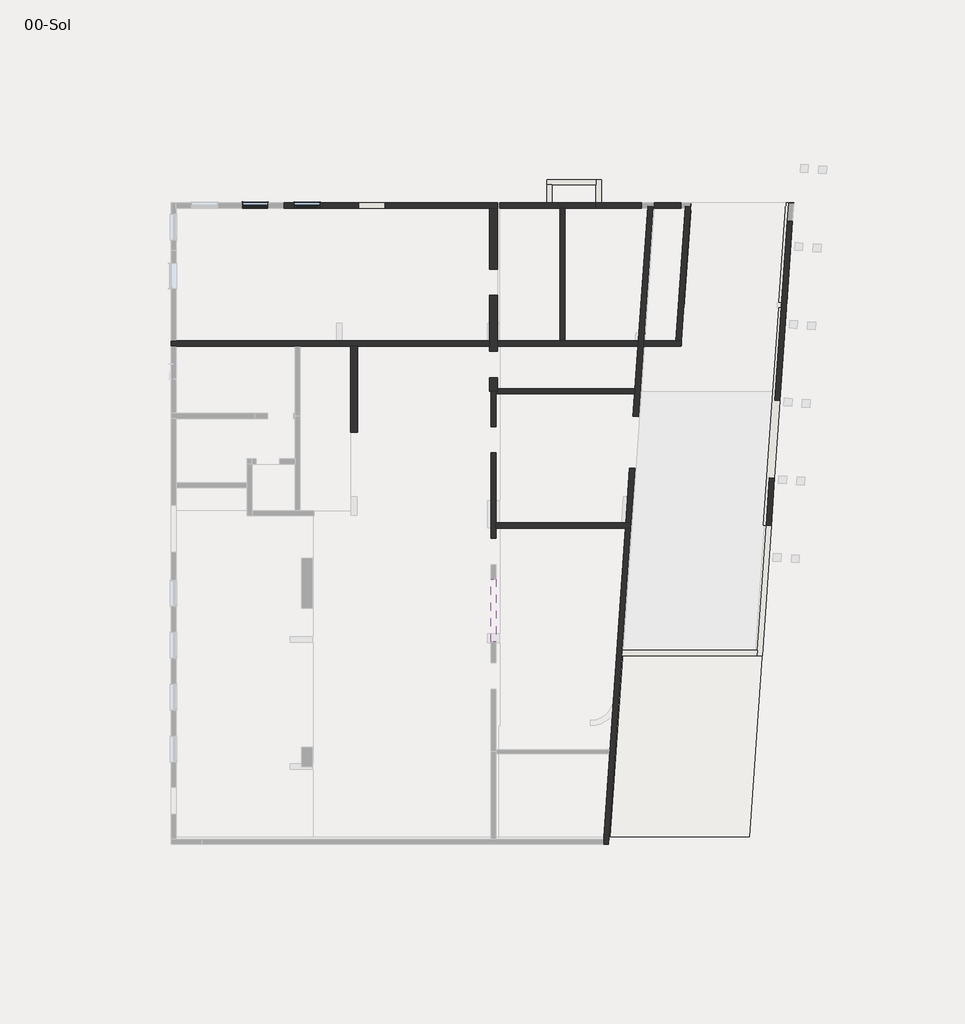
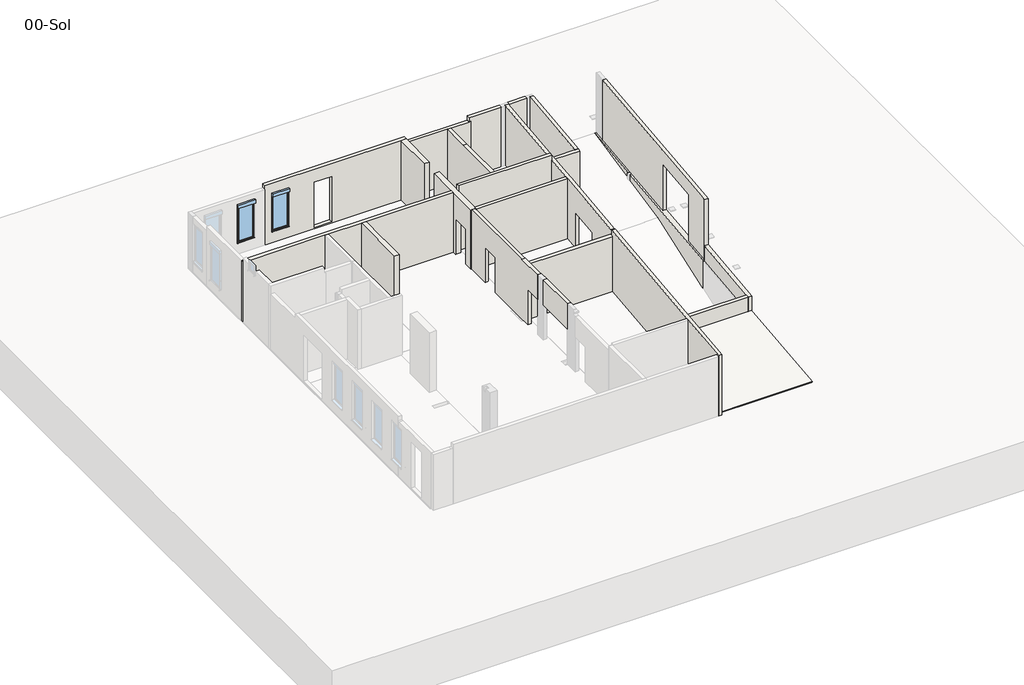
# One storey, part 2 of 4: 37 walls, 2 slabs, 2 windows.
"""IFC4 building model written with IfcOpenShell, lengths in millimetres."""

from ifc_helpers import new_model, si_unit, point, frame, frame_2d, origin, place, context, project, spatial, polyline, circle_curve, trimmed, segment, composite_curve, outline, extrude, faceted_brep, transform, mapped, element, save
from components import window_220x100_16273c3d

model = new_model("IFC4")

# Units and contexts
model_context = context("Model", 3, world=origin())
ifc_project = project(units=[si_unit("LENGTHUNIT", "METRE", prefix="MILLI")], contexts=[model_context])

# Site, building, storey
site = spatial("IfcSite", under=ifc_project)
building = spatial("IfcBuilding", under=site)
storey = spatial("IfcBuildingStorey", under=building, Name="00-Sol", Elevation=0.0)

# Slabs
placement = place(None, origin())
element("IfcSlab", 1, ObjectType="Plancher Coulé en place 27", at=placement, inside=storey, context=model_context, shape_type="SweptSolid", body=[
    extrude(outline(polyline([(10787.9047469, -5440.1377724), (11290.1513578, 1742.3233895), (16713.0368526, 1742.3233895), (16210.7902416, -5440.1377724), (10787.9047469, -5440.1377724)])), frame((0.0, 0.0, -220.0), z_axis=(0.0, 0.0, 1.0), x_axis=(1.0, 0.0, 0.0)), (0.0, 0.0, 1.0), 270.0),
])
element("IfcSlab", 2, ObjectType="Dallage 15", at=placement, inside=storey, context=model_context, shape_type="SweptSolid", body=[
    extrude(outline(composite_curve([segment(trimmed(circle_curve(frame_2d((10051.4470347, -15.3225366)), 1145.0172542), [point((10072.9548981, -1160.1377724))], [point((10816.6343347, -867.1164718))], True, "CARTESIAN"), True, "CONTINUOUS"), segment(trimmed(circle_curve(frame_2d((10128.1424498, -100.6986131)), 1030.2511392), [point((10816.6343347, -867.1164718))], [point((11155.883949, -172.5652996))], True, "CARTESIAN"), True, "CONTINUOUS"), segment(polyline([(11155.883949, -172.5652996), (11066.6218545, -1449.0727226), (16054.4421058, -1797.8550913), (15841.0057088, -4850.1377724), (5232.9552204, -4850.1377724), (5232.9552204, -1160.1377724), (10072.9548981, -1160.1377724)]), True, "CONTINUOUS")], self_intersect=False)), frame((0.0, 0.0, -3540.0), z_axis=(0.0, 0.0, 1.0), x_axis=(1.0, 0.0, 0.0)), (0.0, 0.0, 1.0), 150.0),
])

# Walls
element("IfcWall", 3, ObjectType="Voile Banché 20 cm", at=placement, inside=storey, context=model_context, shape_type="Brep", body=[
    faceted_brep([(-1757.0447796, 18799.8622276, 80.0), (6182.9552204, 18799.8622276, 80.0), (6482.9552204, 18799.8622276, 80.0), (6482.9552204, 18799.8622276, 3510.0), (6482.9552204, 18799.8622276, 3690.0), (6482.9552204, 18799.8622276, 3760.0), (6182.9552204, 18799.8622276, 3760.0), (-1757.0447796, 18799.8622276, 3760.0), (-1757.0447796, 18799.8622276, 3510.0), (1130.4552204, 18799.8622276, 150.0), (1130.4552204, 18799.8622276, 2950.0), (2155.4552204, 18799.8622276, 2950.0), (2155.4552204, 18799.8622276, 150.0), (-357.0447796, 18799.8622276, 3150.0), (-357.0447796, 18799.8622276, 750.0), (-1357.0447796, 18799.8622276, 750.0), (-1357.0447796, 18799.8622276, 3150.0), (6482.9552204, 18999.8622276, 80.0), (-1757.0447796, 18999.8622276, 80.0), (-1757.0447796, 18999.8622276, 3510.0), (-1757.0447796, 18999.8622276, 3760.0), (6482.9552204, 18999.8622276, 3760.0), (6482.9552204, 18999.8622276, 3690.0), (6482.9552204, 18999.8622276, 3510.0), (1130.4552204, 18999.8622276, 2950.0), (1130.4552204, 18999.8622276, 150.0), (2155.4552204, 18999.8622276, 150.0), (2155.4552204, 18999.8622276, 2950.0), (-357.0447796, 18999.8622276, 750.0), (-357.0447796, 18999.8622276, 3150.0), (-1357.0447796, 18999.8622276, 3150.0), (-1357.0447796, 18999.8622276, 750.0)], [[[0, 1, 2, 3, 4, 5, 6, 7, 8], [9, 10, 11, 12], [13, 14, 15, 16]], [[17, 18, 19, 20, 21, 22, 23], [24, 25, 26, 27], [28, 29, 30, 31]], [[2, 1, 0, 18, 17]], [[0, 8, 7, 20, 19, 18]], [[7, 6, 5, 21, 20]], [[2, 17, 23, 22, 21, 5, 4, 3]], [[9, 25, 24, 10]], [[10, 24, 27, 11]], [[11, 27, 26, 12]], [[25, 9, 12, 26]], [[28, 14, 13, 29]], [[29, 13, 16, 30]], [[30, 16, 15, 31]], [[14, 28, 31, 15]]]),
])
element("IfcWall", 4, ObjectType="Voile Banché 20 cm", at=placement, inside=storey, context=model_context, shape_type="Brep", body=[
    faceted_brep([(-6107.0447796, 13479.8622276, 80.0), (-5907.0447796, 13479.8622276, 80.0), (257.9552204, 13479.8622276, 80.0), (507.9552204, 13479.8622276, 80.0), (812.9552204, 13479.8622276, 80.0), (1082.9552204, 13479.8622276, 80.0), (6082.9552204, 13479.8622276, 80.0), (6182.9552204, 13479.8622276, 80.0), (6182.9552204, 13479.8622276, 3760.0), (1082.9552204, 13479.8622276, 3760.0), (812.9552204, 13479.8622276, 3760.0), (-1127.0447796, 13479.8622276, 3760.0), (-1327.0447796, 13479.8622276, 3760.0), (-6107.0447796, 13479.8622276, 3760.0), (-6107.0447796, 13679.8622276, 80.0), (-6107.0447796, 13679.8622276, 3760.0), (-5907.0447796, 13679.8622276, 3760.0), (6182.9552204, 13679.8622276, 3760.0), (6182.9552204, 13679.8622276, 80.0), (-5907.0447796, 13679.8622276, 80.0)], [[[0, 1, 2, 3, 4, 5, 6, 7, 8, 9, 10, 11, 12, 13]], [[14, 15, 16, 17, 18, 19]], [[7, 6, 5, 4, 3, 2, 1, 0, 14, 19, 18]], [[0, 13, 15, 14]], [[8, 7, 18, 17]], [[13, 12, 11, 10, 9, 8, 17, 16, 15]]]),
])
element("IfcWall", 5, ObjectType="Voile Banché 20 cm", at=placement, inside=storey, context=model_context, shape_type="Brep", body=[
    faceted_brep([(6432.9552204, 11729.8622276, 80.0), (6432.9552204, 11729.8622276, 3760.0), (6432.9552204, 6729.8622276, 3760.0), (6432.9552204, 6659.8622276, 3760.0), (6432.9552204, 5039.8622276, 3760.0), (6432.9552204, 5039.8622276, 2250.0), (6432.9552204, 6059.8622276, 2250.0), (6432.9552204, 6059.8622276, 80.0), (6432.9552204, 6459.8622276, 80.0), (6432.9552204, 6659.8622276, 80.0), (6432.9552204, 9354.8622276, 80.0), (6432.9552204, 9354.8622276, 2250.0), (6432.9552204, 10374.8622276, 2250.0), (6432.9552204, 10374.8622276, 80.0), (6232.9552204, 11729.8622276, 3760.0), (6232.9552204, 11729.8622276, 80.0), (6232.9552204, 10374.8622276, 80.0), (6232.9552204, 10374.8622276, 2250.0), (6232.9552204, 9354.8622276, 2250.0), (6232.9552204, 9354.8622276, 80.0), (6232.9552204, 6059.8622276, 80.0), (6232.9552204, 6059.8622276, 2250.0), (6232.9552204, 5039.8622276, 2250.0), (6232.9552204, 5039.8622276, 3760.0), (6232.9552204, 6659.8622276, 3760.0), (6232.9552204, 6729.8622276, 3760.0)], [[[0, 1, 2, 3, 4, 5, 6, 7, 8, 9, 10, 11, 12, 13]], [[14, 15, 16, 17, 18, 19, 20, 21, 22, 23, 24, 25]], [[15, 0, 13, 16]], [[19, 10, 9, 8, 7, 20]], [[1, 0, 15, 14]], [[4, 23, 22, 5]], [[11, 18, 17, 12]], [[18, 11, 10, 19]], [[12, 17, 16, 13]], [[21, 6, 5, 22]], [[6, 21, 20, 7]], [[4, 3, 24, 23]], [[3, 2, 1, 14, 25, 24]]]),
])
element("IfcWall", 6, ObjectType="Voile Banché 30 cm", at=placement, inside=storey, context=model_context, shape_type="Brep", body=[
    faceted_brep([(6182.9552204, 11729.8622276, 80.0), (6182.9552204, 11729.8622276, 3410.0), (6182.9552204, 11729.8622276, 3760.0), (6182.9552204, 11979.8622276, 3760.0), (6182.9552204, 13479.8622276, 3760.0), (6182.9552204, 13679.8622276, 3760.0), (6182.9552204, 15439.8622276, 3760.0), (6182.9552204, 15439.8622276, 80.0), (6182.9552204, 13679.8622276, 80.0), (6182.9552204, 13479.8622276, 80.0), (6182.9552204, 13269.8622276, 80.0), (6182.9552204, 13269.8622276, 2250.0), (6182.9552204, 12249.8622276, 2250.0), (6182.9552204, 12249.8622276, 80.0), (6482.9552204, 11729.8622276, 3760.0), (6482.9552204, 11729.8622276, 80.0), (6482.9552204, 12249.8622276, 80.0), (6482.9552204, 12249.8622276, 2250.0), (6482.9552204, 13269.8622276, 2250.0), (6482.9552204, 13269.8622276, 80.0), (6482.9552204, 13479.8622276, 80.0), (6482.9552204, 13679.8622276, 80.0), (6482.9552204, 15439.8622276, 80.0), (6482.9552204, 15439.8622276, 3760.0), (6432.9552204, 11729.8622276, 80.0), (6232.9552204, 11729.8622276, 80.0), (6432.9552204, 11729.8622276, 3760.0), (6232.9552204, 11729.8622276, 3760.0), (6432.9552204, 15439.8622276, 3760.0)], [[[0, 1, 2, 3, 4, 5, 6, 7, 8, 9, 10, 11, 12, 13]], [[14, 15, 16, 17, 18, 19, 20, 21, 22, 23]], [[7, 22, 21, 20, 19, 10, 9, 8]], [[15, 24, 25, 0, 13, 16]], [[2, 1, 0, 25, 24, 15, 14, 26, 27]], [[7, 6, 28, 23, 22]], [[11, 18, 17, 12]], [[18, 11, 10, 19]], [[12, 17, 16, 13]], [[6, 5, 4, 3, 2, 27, 26, 14, 23, 28]]]),
])
element("IfcWall", 7, ObjectType="Voile Banché 20 cm", at=placement, inside=storey, context=model_context, shape_type="Brep", body=[
    faceted_brep([(12287.1256822, 18866.837875, 3780.0), (12287.1256822, 18866.837875, 80.0), (11924.4170116, 13679.8622276, 80.0), (11910.4316492, 13479.8622276, 80.0), (11795.0524095, 11829.8622276, 80.0), (11781.0670471, 11629.8622276, 80.0), (11720.715218, 10766.7908613, 80.0), (11720.715218, 10766.7908613, 2250.0), (11581.2022705, 8771.6627608, 2250.0), (11581.2022705, 8771.6627608, 80.0), (11433.5307918, 6659.8622276, 80.0), (11433.5307918, 6659.8622276, 3490.0), (11427.0258953, 6566.837875, 3490.0), (11427.0258953, 6566.837875, 3780.0), (11433.5307918, 6659.8622276, 3780.0), (11781.0670471, 11629.8622276, 3780.0), (11795.0524095, 11829.8622276, 3780.0), (12486.6384923, 18852.8865803, 80.0), (12486.6384923, 18852.8865803, 3780.0), (12015.8195646, 12119.8622276, 3780.0), (11980.8561586, 11619.8622276, 3780.0), (11634.0191714, 6659.8622276, 3780.0), (11626.5387054, 6552.8865803, 3780.0), (11626.5387054, 6552.8865803, 3490.0), (11634.0191714, 6659.8622276, 3490.0), (11634.0191714, 6659.8622276, 80.0), (11702.6506396, 7641.3379502, 80.0), (11703.6160138, 7655.1434441, 80.0), (11780.7150805, 8757.711466, 80.0), (11780.7150805, 8757.711466, 2250.0), (11920.228028, 10752.8395665, 2250.0), (11920.228028, 10752.8395665, 80.0), (12109.9423399, 13465.8806245, 80.0), (12110.9200288, 13479.8622276, 80.0), (12111.4078136, 13486.837875, 80.0), (12124.9053912, 13679.8622276, 80.0)], [[[0, 1, 2, 3, 4, 5, 6, 7, 8, 9, 10, 11, 12, 13, 14, 15, 16]], [[17, 18, 19, 20, 21, 22, 23, 24, 25, 26, 27, 28, 29, 30, 31, 32, 33, 34, 35]], [[1, 17, 35, 34, 33, 32, 31, 6, 5, 4, 3, 2]], [[25, 10, 9, 28, 27, 26]], [[1, 0, 18, 17]], [[7, 30, 29, 8]], [[30, 7, 6, 31]], [[8, 29, 28, 9]], [[22, 13, 12, 23]], [[23, 12, 11, 24]], [[10, 25, 24, 11]], [[13, 22, 21, 14]], [[21, 20, 19, 18, 0, 16, 15, 14]]]),
])
element("IfcWall", 8, ObjectType="Voile Banché 20 cm", at=placement, inside=storey, context=model_context, shape_type="Brep", body=[
    faceted_brep([(6582.9552204, 18799.8622276, 80.0), (10272.9552204, 18799.8622276, 80.0), (10272.9552204, 18799.8622276, 3510.0), (10172.9552204, 18799.8622276, 3510.0), (9092.9552204, 18799.8622276, 3510.0), (8892.9552204, 18799.8622276, 3510.0), (6582.9552204, 18799.8622276, 3510.0), (6582.9552204, 18999.8622276, 80.0), (6582.9552204, 18999.8622276, 3510.0), (6632.9552204, 18999.8622276, 3510.0), (10172.9552204, 18999.8622276, 3510.0), (10272.9552204, 18999.8622276, 3510.0), (10272.9552204, 18999.8622276, 80.0)], [[[0, 1, 2, 3, 4, 5, 6]], [[7, 8, 9, 10, 11, 12]], [[1, 0, 7, 12]], [[0, 6, 8, 7]], [[3, 2, 11, 10]], [[6, 5, 4, 3, 10, 9, 8]], [[1, 12, 11, 2]]]),
])
element("IfcWall", 9, ObjectType="Voile Banché 20 cm", at=placement, inside=storey, context=model_context, shape_type="SweptSolid", body=[
    extrude(outline(polyline([(13562.9552204, 18799.8622276), (12542.9552204, 18799.8622276), (12542.9552204, 18999.8622276), (13562.9552204, 18999.8622276), (13562.9552204, 18799.8622276)])), frame((0.0, 0.0, 80.0), z_axis=(0.0, 0.0, 1.0), x_axis=(1.0, 0.0, 0.0)), (0.0, 0.0, 1.0), 3700.0),
])
element("IfcWall", 10, ObjectType="Voile Banché 20 cm", at=placement, inside=storey, context=model_context, shape_type="Brep", body=[
    faceted_brep([(6432.9552204, 6459.8622276, 80.0), (6582.9552204, 6459.8622276, 80.0), (11419.5454294, 6459.8622276, 80.0), (11620.033809, 6459.8622276, 80.0), (11620.033809, 6459.8622276, 3210.0), (11620.033809, 6459.8622276, 3490.0), (11419.5454294, 6459.8622276, 3490.0), (6432.9552204, 6459.8622276, 3490.0), (6432.9552204, 6659.8622276, 80.0), (6432.9552204, 6659.8622276, 3490.0), (11433.5307918, 6659.8622276, 3490.0), (11634.0191714, 6659.8622276, 3490.0), (11634.0191714, 6659.8622276, 80.0), (11433.5307918, 6659.8622276, 80.0), (11626.5387054, 6552.8865803, 3490.0)], [[[0, 1, 2, 3, 4, 5, 6, 7]], [[8, 9, 10, 11, 12, 13]], [[3, 2, 1, 0, 8, 13, 12]], [[7, 6, 5, 14, 11, 10, 9]], [[0, 7, 9, 8]], [[5, 4, 3, 12, 11, 14]]]),
])
element("IfcWall", 11, ObjectType="Voile Banché 20 cm", at=placement, inside=storey, context=model_context, shape_type="Brep", body=[
    faceted_brep([(11419.5454294, 6459.8622276, 80.0), (10822.3704554, -2080.1377724, 80.0), (10811.1821655, -2240.1377724, 80.0), (10587.4163672, -5440.1377724, 80.0), (10587.3940444, -5440.4570037, 80.0), (10580.423686, -5540.1377724, 80.0), (10566.4383237, -5740.1377724, 80.0), (10566.4383237, -5740.1377724, 3760.0), (10566.4383237, -5740.1377724, 3810.0), (10811.1821655, -2240.1377724, 3810.0), (10822.3704554, -2080.1377724, 3810.0), (11427.0258953, 6566.837875, 3810.0), (11427.0258953, 6566.837875, 3780.0), (11427.0258953, 6566.837875, 3490.0), (11419.5454294, 6459.8622276, 3490.0), (10766.9267033, -5740.1377724, 80.0), (10787.882424, -5440.4570037, 80.0), (10787.9047469, -5440.1377724, 80.0), (11620.033809, 6459.8622276, 80.0), (11620.033809, 6459.8622276, 3490.0), (11626.5387054, 6552.8865803, 3490.0), (11626.5387054, 6552.8865803, 3780.0), (11626.5387054, 6552.8865803, 3810.0), (10766.9267033, -5740.1377724, 3810.0), (10766.9267033, -5740.1377724, 280.0), (11434.634224, 6566.3058488, 3810.0)], [[[0, 1, 2, 3, 4, 5, 6, 7, 8, 9, 10, 11, 12, 13, 14]], [[15, 16, 17, 18, 19, 20, 21, 22, 23, 24]], [[0, 14, 19, 18]], [[6, 5, 4, 3, 2, 1, 0, 18, 17, 16, 15]], [[11, 10, 9, 8, 23, 22, 25]], [[13, 12, 11, 25, 22, 21, 20]], [[13, 20, 19, 14]], [[8, 7, 6, 15, 24, 23]]]),
])
element("IfcWall", 12, ObjectType="Voile Banché 20 cm", at=placement, inside=storey, context=model_context, shape_type="Brep", body=[
    faceted_brep([(16849.9113901, 6566.837875, 80.0), (16849.9113901, 6566.837875, 950.0), (16849.9113901, 6566.837875, 3210.0), (16849.9113901, 6566.837875, 3780.0), (16877.3943301, 6959.8622276, 3780.0), (17670.9713991, 18308.5430398, 3780.0), (17670.9713991, 18308.5430398, 80.0), (17186.8614713, 11385.448531, 80.0), (17186.8614713, 11385.448531, 2950.0), (16977.59205, 8392.7563802, 2950.0), (16977.59205, 8392.7563802, 80.0), (17049.4242002, 6552.8865803, 3780.0), (17049.4242002, 6552.8865803, 3210.0), (17049.4242002, 6552.8865803, 950.0), (17049.4242002, 6552.8865803, 80.0), (17177.1048601, 8378.8050855, 80.0), (17177.1048601, 8378.8050855, 2950.0), (17386.3742813, 11371.4972363, 2950.0), (17386.3742813, 11371.4972363, 80.0), (17636.1024573, 14942.7765362, 80.0), (17870.4842091, 18294.5917451, 80.0), (17870.4842091, 18294.5917451, 3780.0)], [[[0, 1, 2, 3, 4, 5, 6, 7, 8, 9, 10]], [[11, 12, 13, 14, 15, 16, 17, 18, 19, 20, 21]], [[14, 0, 10, 15]], [[6, 20, 19, 18, 7]], [[3, 2, 1, 0, 14, 13, 12, 11]], [[6, 5, 21, 20]], [[8, 17, 16, 9]], [[17, 8, 7, 18]], [[9, 16, 15, 10]], [[5, 4, 3, 11, 21]]]),
])
element("IfcWall", 13, ObjectType="Voile Banché 20 cm", at=placement, inside=storey, context=model_context, shape_type="Brep", body=[
    faceted_brep([(13737.1502343, 18866.837875, 80.0), (13732.4668408, 18799.8622276, 80.0), (13374.4415637, 13679.8622276, 80.0), (13374.4415637, 13679.8622276, 3780.0), (13732.4668408, 18799.8622276, 3780.0), (13737.1502343, 18866.837875, 3780.0), (13936.6630444, 18852.8865803, 80.0), (13936.6630444, 18852.8865803, 3410.0), (13936.6630444, 18852.8865803, 3780.0), (13932.9552204, 18799.8622276, 3780.0), (13574.9299433, 13679.8622276, 3780.0), (13574.9299433, 13679.8622276, 3760.0), (13574.9299433, 13679.8622276, 80.0), (13932.9552204, 18853.1458566, 80.0), (13932.9552204, 18853.1458566, 3780.0)], [[[0, 1, 2, 3, 4, 5]], [[6, 7, 8, 9, 10, 11, 12]], [[2, 1, 0, 13, 6, 12]], [[0, 5, 14, 8, 7, 6, 13]], [[3, 2, 12, 11, 10]], [[5, 4, 3, 10, 9, 8, 14]]]),
])
element("IfcWall", 14, ObjectType="Voile Banché 20 cm", at=placement, inside=storey, context=model_context, shape_type="Brep", body=[
    faceted_brep([(12110.9200288, 13479.8622276, 80.0), (13560.9445809, 13479.8622276, 80.0), (13560.9445809, 13479.8622276, 3760.0), (12110.9200288, 13479.8622276, 3760.0), (12124.9053912, 13679.8622276, 80.0), (12124.9053912, 13679.8622276, 3760.0), (13574.9299433, 13679.8622276, 3760.0), (13574.9299433, 13679.8622276, 80.0), (13374.4415637, 13679.8622276, 80.0)], [[[0, 1, 2, 3]], [[4, 5, 6, 7, 8]], [[1, 0, 4, 8, 7]], [[3, 2, 6, 5]], [[0, 3, 5, 4]], [[2, 1, 7, 6]]]),
])
element("IfcWall", 15, ObjectType="Voile Banché 30 cm", at=placement, inside=storey, context=model_context, shape_type="SweptSolid", body=[
    extrude(outline(polyline([(6182.9552204, 16439.8622276), (6182.9552204, 18799.8622276), (6482.9552204, 18799.8622276), (6482.9552204, 16439.8622276), (6182.9552204, 16439.8622276)])), frame((0.0, 0.0, 80.0), z_axis=(0.0, 0.0, 1.0), x_axis=(1.0, 0.0, 0.0)), (0.0, 0.0, 1.0), 3680.0),
])
element("IfcWall", 16, ObjectType="Voile Banché 20 cm", at=placement, inside=storey, context=model_context, shape_type="SweptSolid", body=[
    extrude(outline(polyline([(6432.9552204, 4489.8622276), (6432.9552204, 2069.8622276), (6232.9552204, 2069.8622276), (6232.9552204, 4489.8622276), (6432.9552204, 4489.8622276)])), frame((0.0, 0.0, 2250.0), z_axis=(0.0, 0.0, 1.0), x_axis=(1.0, 0.0, 0.0)), (0.0, 0.0, 1.0), 1560.0),
])
element("IfcWall", 17, ObjectType="Voile Banché 20 cm", at=placement, inside=storey, context=model_context, shape_type="Brep", body=[
    faceted_brep([(10272.9552204, 18799.8622276, 3510.0), (10272.9552204, 18799.8622276, 80.0), (12042.9552204, 18799.8622276, 80.0), (12042.9552204, 18799.8622276, 3780.0), (10372.9552204, 18799.8622276, 3780.0), (10172.9552204, 18799.8622276, 3780.0), (10172.9552204, 18799.8622276, 3690.0), (10172.9552204, 18799.8622276, 3510.0), (10272.9552204, 18999.8622276, 80.0), (10272.9552204, 18999.8622276, 3510.0), (10172.9552204, 18999.8622276, 3510.0), (10172.9552204, 18999.8622276, 3690.0), (10172.9552204, 18999.8622276, 3780.0), (10372.9552204, 18999.8622276, 3780.0), (12042.9552204, 18999.8622276, 3780.0), (12042.9552204, 18999.8622276, 80.0)], [[[0, 1, 2, 3, 4, 5, 6, 7]], [[8, 9, 10, 11, 12, 13, 14, 15]], [[2, 1, 8, 15]], [[3, 2, 15, 14]], [[5, 4, 3, 14, 13, 12]], [[0, 9, 8, 1]], [[7, 10, 9, 0]], [[5, 12, 11, 10, 7, 6]]]),
])
element("IfcWall", 18, ObjectType="Voile Banché 28", at=placement, inside=storey, context=model_context, shape_type="Brep", body=[
    faceted_brep([(-5827.0447796, 18719.8622276, -3690.0), (6182.9552204, 18719.8622276, -3690.0), (6482.9552204, 18719.8622276, -3690.0), (12301.5840174, 18719.8622276, -3690.0), (12502.072397, 18719.8622276, -3690.0), (13740.0881411, 18719.8622276, -3690.0), (13940.5765208, 18719.8622276, -3690.0), (17599.4894487, 18719.8622276, -3690.0), (17599.4894487, 18719.8622276, -3520.0), (17599.4894487, 18719.8622276, -3390.0), (17599.4894487, 18719.8622276, -150.0), (12502.072397, 18719.8622276, -150.0), (12301.5840174, 18719.8622276, -150.0), (-5827.0447796, 18719.8622276, -150.0), (-5827.0447796, 18719.8622276, -3390.0), (-5827.0447796, 18719.8622276, -3520.0), (8589.8015255, 18719.8622276, -2490.0), (10289.8015255, 18719.8622276, -2490.0), (10289.8015255, 18719.8622276, -3390.0), (8589.8015255, 18719.8622276, -3390.0), (17619.0689561, 18999.8622276, -3690.0), (10489.8015255, 18999.8622276, -3690.0), (10289.8015255, 18999.8622276, -3690.0), (8589.8015255, 18999.8622276, -3690.0), (8389.8015255, 18999.8622276, -3690.0), (-5827.0447796, 18999.8622276, -3690.0), (-5827.0447796, 18999.8622276, -190.0), (-5827.0447796, 18999.8622276, -150.0), (13562.9552204, 18999.8622276, -150.0), (13932.9552204, 18999.8622276, -150.0), (17619.0689561, 18999.8622276, -150.0), (10289.8015255, 18999.8622276, -2490.0), (8589.8015255, 18999.8622276, -2490.0), (8589.8015255, 18999.8622276, -3390.0), (10289.8015255, 18999.8622276, -3390.0)], [[[0, 1, 2, 3, 4, 5, 6, 7, 8, 9, 10, 11, 12, 13, 14, 15], [16, 17, 18, 19]], [[20, 21, 22, 23, 24, 25, 26, 27, 28, 29, 30], [31, 32, 33, 34]], [[0, 15, 14, 13, 27, 26, 25]], [[10, 9, 8, 7, 20, 30]], [[7, 6, 5, 4, 3, 2, 1, 0, 25, 24, 23, 22, 21, 20]], [[13, 12, 11, 10, 30, 29, 28, 27]], [[16, 32, 31, 17]], [[18, 34, 33, 19]], [[17, 31, 34, 18]], [[32, 16, 19, 33]]]),
])
element("IfcWall", 19, ObjectType="Voile Banché 30 cm", at=placement, inside=storey, context=model_context, shape_type="Brep", body=[
    faceted_brep([(17336.8332423, 14963.7034783, -3690.0), (17335.6538844, 14946.837875, -3690.0), (17247.5461013, 13686.837875, -3690.0), (17233.5607389, 13486.837875, -3690.0), (16756.1720967, 6659.8622276, -3690.0), (16749.9110927, 6570.3256987, -3690.0), (16749.9110927, 6570.3256987, -1898.5951518), (17110.3924021, 11725.4485968, -787.5675568), (17110.3924021, 11725.4485968, -552.3120168), (16749.9110927, 6570.3256987, -1663.3396118), (16749.9110927, 6570.3256987, 80.0), (17335.6538844, 14946.837875, 80.0), (17336.8332423, 14963.7034783, 80.0), (17336.8332423, 14963.7034783, -269.493518), (17336.8332423, 14963.7034783, -500.4065293), (17336.8332423, 14963.7034783, -3390.0), (17336.8332423, 14963.7034783, -3520.0), (17049.1803078, 6549.3987566, -3690.0), (17636.1024573, 14942.7765362, -3690.0), (17636.1024573, 14942.7765362, 80.0), (17386.3742813, 11371.4972363, 80.0), (17177.1048601, 8378.8050855, 80.0), (17049.4242002, 6552.8865803, 80.0), (17049.1803078, 6549.3987566, 80.0), (17578.0226065, 14946.837875, -3690.0), (17578.0226065, 14946.837875, 80.0), (16799.7892952, 6566.837875, -1898.5951518), (17160.514497, 11725.4485968, -786.8158641), (17160.514497, 11725.4485968, -551.5603241), (16799.7892952, 6566.837875, -1663.3396118)], [[[0, 1, 2, 3, 4, 5, 6, 7, 8, 9, 10, 11, 12, 13, 14, 15, 16]], [[17, 18, 19, 20, 21, 22, 23]], [[5, 4, 3, 2, 1, 0, 24, 18, 17]], [[12, 11, 10, 23, 22, 21, 20, 19, 25]], [[0, 16, 15, 14, 13, 12, 25, 19, 18, 24]], [[26, 27, 7, 6]], [[8, 28, 29, 9]], [[27, 28, 8, 7]], [[28, 27, 26, 29]], [[5, 17, 23, 10, 9, 29, 26, 6]]]),
])
element("IfcWall", 20, ObjectType="Voile Banché 20 cm", at=placement, inside=storey, context=model_context, shape_type="Brep", body=[
    faceted_brep([(16849.9113901, 6566.837875, -220.0), (16849.9113901, 6566.837875, -3690.0), (16842.4309241, 6459.8622276, -3690.0), (16503.1722526, 1608.237191, -3690.0), (16503.1722526, 1608.237191, -220.0), (16512.548473, 1742.3233895, -220.0), (17049.4242002, 6552.8865803, -3690.0), (17049.4242002, 6552.8865803, -220.0), (16713.0368526, 1742.3233895, -220.0), (16702.6850626, 1594.2858962, -220.0), (16702.6850626, 1594.2858962, -3690.0)], [[[0, 1, 2, 3, 4, 5]], [[6, 7, 8, 9, 10]], [[3, 2, 1, 6, 10]], [[4, 3, 10, 9]], [[0, 5, 8, 7]], [[5, 4, 9, 8]], [[0, 7, 6, 1]]]),
])
element("IfcWall", 21, ObjectType="Voile Banché 20 cm", at=placement, inside=storey, context=model_context, shape_type="Brep", body=[
    faceted_brep([(13740.0881411, 18719.8622276, -3690.0), (13476.2525768, 14946.837875, -3690.0), (13476.2525768, 14946.837875, -120.0), (13476.2525768, 14946.837875, 80.0), (13740.0881411, 18719.8622276, 80.0), (13940.5765208, 18719.8622276, -3690.0), (13940.5765208, 18719.8622276, 80.0), (13676.7409564, 14946.837875, 80.0), (13676.7409564, 14946.837875, -120.0), (13676.7409564, 14946.837875, -420.0), (13676.7409564, 14946.837875, -3690.0), (13690.7263188, 15146.837875, -3690.0)], [[[0, 1, 2, 3, 4]], [[5, 6, 7, 8, 9, 10, 11]], [[1, 0, 5, 11, 10]], [[4, 3, 7, 6]], [[0, 4, 6, 5]], [[3, 2, 1, 10, 9, 8, 7]]]),
])
element("IfcWall", 22, ObjectType="Voile Banché 20 cm", at=placement, inside=storey, context=model_context, shape_type="Brep", body=[
    faceted_brep([(12301.5840174, 18719.8622276, -3690.0), (11969.9232764, 13976.8926603, -3690.0), (11969.3572698, 13968.7983882, -3690.0), (11969.3572698, 13968.7983882, -3520.0), (11969.3572698, 13968.7983882, -3390.0), (11969.3572698, 13968.7983882, -150.0), (11969.9232764, 13976.8926603, -150.0), (12301.5840174, 18719.8622276, -150.0), (12502.072397, 18719.8622276, -3690.0), (12502.072397, 18719.8622276, -150.0), (12168.8700798, 13954.8470935, -150.0), (12168.8700798, 13954.8470935, -3690.0), (12168.43665, 13954.8774018, -3690.0), (12168.43665, 13954.8774018, -150.0)], [[[0, 1, 2, 3, 4, 5, 6, 7]], [[8, 9, 10, 11]], [[2, 1, 0, 8, 11, 12]], [[5, 4, 3, 2, 12, 11, 10, 13]], [[0, 7, 9, 8]], [[7, 6, 5, 13, 10, 9]]]),
])
element("IfcWall", 23, ObjectType="Voile Banché 20 cm", at=placement, inside=storey, context=model_context, shape_type="Brep", body=[
    faceted_brep([(13589.8015255, 13486.837875, -3690.0), (17233.5607389, 13486.837875, -3690.0), (17233.5607389, 13486.837875, -560.0), (13589.8015255, 13486.837875, -560.0), (13589.8015255, 13486.837875, 80.0), (12111.4078136, 13486.837875, 80.0), (11810.239695, 13486.837875, 80.0), (11789.8015255, 13486.837875, 80.0), (11789.8015255, 13486.837875, -150.0), (11789.8015255, 13486.837875, -1650.0), (11789.8015255, 13486.837875, -3690.0), (11810.239695, 13486.837875, -3690.0), (12135.708138, 13486.837875, -3690.0), (16110.6166987, 13486.837875, -1290.0), (17210.6166987, 13486.837875, -1290.0), (17210.6166987, 13486.837875, -3390.0), (16110.6166987, 13486.837875, -3390.0), (17247.5461013, 13686.837875, -3690.0), (13589.8015255, 13686.837875, -3690.0), (12149.6935004, 13686.837875, -3690.0), (11798.838836, 13686.837875, -3690.0), (11789.8015255, 13686.837875, -3690.0), (11789.8015255, 13686.837875, -300.0), (11789.8015255, 13686.837875, -150.0), (11789.8015255, 13686.837875, 80.0), (11803.6869502, 13686.837875, 80.0), (11845.6552204, 13686.837875, 80.0), (13589.8015255, 13686.837875, 80.0), (13589.8015255, 13686.837875, -560.0), (17247.5461013, 13686.837875, -560.0), (17210.6166987, 13686.837875, -1290.0), (16110.6166987, 13686.837875, -1290.0), (16110.6166987, 13686.837875, -3390.0), (17210.6166987, 13686.837875, -3390.0), (11789.8015255, 13557.5983132, -3690.0), (11789.8015255, 13488.267051, -3690.0)], [[[0, 1, 2, 3, 4, 5, 6, 7, 8, 9, 10, 11, 12], [13, 14, 15, 16]], [[17, 18, 19, 20, 21, 22, 23, 24, 25, 26, 27, 28, 29], [30, 31, 32, 33]], [[2, 1, 17, 29]], [[13, 31, 30, 14]], [[15, 33, 32, 16]], [[31, 13, 16, 32]], [[14, 30, 33, 15]], [[1, 0, 18, 17]], [[3, 2, 29, 28]], [[4, 3, 28, 27]], [[7, 6, 5, 4, 27, 26, 25, 24]], [[10, 9, 8, 7, 24, 23, 22, 21, 34, 35]], [[0, 12, 11, 10, 35, 34, 21, 20, 19, 18]]]),
])
element("IfcWall", 24, ObjectType="Voile Banché 20 cm", at=placement, inside=storey, context=model_context, shape_type="Brep", body=[
    faceted_brep([(13676.7409564, 14946.837875, -3690.0), (17284.2933084, 14946.837875, -3690.0), (17284.2933084, 14946.837875, -3520.0), (17284.2933084, 14946.837875, -3390.0), (16184.2933084, 14946.837875, -3390.0), (16184.2933084, 14946.837875, -1290.0), (17284.2933084, 14946.837875, -1290.0), (17284.2933084, 14946.837875, -502.2340046), (17284.2933084, 14946.837875, -420.0), (13676.7409564, 14946.837875, -420.0), (17284.2933084, 15146.837875, -3690.0), (13690.7263188, 15146.837875, -3690.0), (13690.7263188, 15146.837875, -420.0), (17284.2933084, 15146.837875, -420.0), (17284.2933084, 15146.837875, -484.4393108), (17284.2933084, 15146.837875, -1290.0), (16184.2933084, 15146.837875, -1290.0), (16184.2933084, 15146.837875, -3390.0), (17284.2933084, 15146.837875, -3390.0), (17284.2933084, 15146.837875, -3520.0)], [[[0, 1, 2, 3, 4, 5, 6, 7, 8, 9]], [[10, 11, 12, 13, 14, 15, 16, 17, 18, 19]], [[1, 0, 11, 10]], [[1, 10, 19, 18, 3, 2]], [[13, 8, 7, 6, 15, 14]], [[9, 8, 13, 12]], [[0, 9, 12, 11]], [[5, 16, 15, 6]], [[17, 4, 3, 18]], [[16, 5, 4, 17]]]),
])
element("IfcWall", 25, ObjectType="Voile Banché 30 cm", at=placement, inside=storey, context=model_context, shape_type="Brep", body=[
    faceted_brep([(6182.9552204, 18719.8622276, -3690.0), (6182.9552204, 14379.8622276, -3690.0), (6182.9552204, 14279.8622276, -3690.0), (6182.9552204, 14279.8622276, -3520.0), (6182.9552204, 14279.8622276, -3390.0), (6182.9552204, 14279.8622276, -720.0), (6182.9552204, 14279.8622276, -190.0), (6182.9552204, 14379.8622276, -190.0), (6182.9552204, 18719.8622276, -190.0), (6482.9552204, 18719.8622276, -3690.0), (6482.9552204, 18719.8622276, -190.0), (6482.9552204, 14379.8622276, -190.0), (6482.9552204, 14279.8622276, -190.0), (6482.9552204, 14279.8622276, -720.0), (6482.9552204, 14279.8622276, -3390.0), (6482.9552204, 14279.8622276, -3520.0), (6482.9552204, 14279.8622276, -3690.0), (6482.9552204, 14379.8622276, -3690.0)], [[[0, 1, 2, 3, 4, 5, 6, 7, 8]], [[9, 10, 11, 12, 13, 14, 15, 16, 17]], [[2, 1, 0, 9, 17, 16]], [[6, 5, 4, 3, 2, 16, 15, 14, 13, 12]], [[0, 8, 10, 9]], [[8, 7, 6, 12, 11, 10]]]),
])
element("IfcWall", 26, ObjectType="Voile Banché 27", at=placement, inside=storey, context=model_context, shape_type="Brep", body=[
    faceted_brep([(1082.9552204, 7679.8622276, -3690.0), (1082.9552204, 10679.8622276, -3690.0), (1082.9552204, 10679.8622276, -190.0), (1082.9552204, 7679.8622276, -190.0), (1082.9552204, 7679.8622276, -3390.0), (1082.9552204, 7679.8622276, -3520.0), (812.9552204, 7679.8622276, -3690.0), (812.9552204, 7679.8622276, -3520.0), (812.9552204, 7679.8622276, -3390.0), (812.9552204, 7679.8622276, -190.0), (812.9552204, 10679.8622276, -190.0), (812.9552204, 10679.8622276, -3690.0)], [[[0, 1, 2, 3, 4, 5]], [[6, 7, 8, 9, 10, 11]], [[1, 0, 6, 11]], [[0, 5, 4, 3, 9, 8, 7, 6]], [[2, 1, 11, 10]], [[3, 2, 10, 9]]]),
])
element("IfcWall", 27, ObjectType="Voile Banché 20 cm", at=placement, inside=storey, context=model_context, shape_type="Brep", body=[
    faceted_brep([(11433.4615436, 6659.8622276, -150.0), (11433.4615436, 6659.8622276, -3690.0), (10961.0375218, -131.6850201, -3690.0), (10961.0375218, -131.6850201, -150.0), (11419.5494259, 6459.8622276, -150.0), (11633.9448272, 6659.8622276, -3690.0), (11633.9448272, 6659.8622276, -1842.4721166), (11633.9448272, 6659.8622276, -150.0), (11160.5554032, -145.5636013, -150.0), (11160.5554032, -145.5636013, -3690.0), (11620.0327096, 6459.8622276, -3690.0)], [[[0, 1, 2, 3, 4]], [[5, 6, 7, 8, 9, 10]], [[2, 1, 5, 10, 9]], [[3, 2, 9, 8]], [[0, 4, 3, 8, 7]], [[0, 7, 6, 5, 1]]]),
])
element("IfcWall", 28, ObjectType="Voile Banché 20 cm", at=placement, inside=storey, context=model_context, shape_type="Brep", body=[
    faceted_brep([(10489.8015255, 18999.8622276, -3690.0), (10489.8015255, 19899.8622276, -3690.0), (10489.8015255, 19899.8622276, 150.0), (10489.8015255, 18999.8622276, 150.0), (10289.8015255, 18999.8622276, -3690.0), (10289.8015255, 18999.8622276, -3390.0), (10289.8015255, 18999.8622276, -2490.0), (10289.8015255, 18999.8622276, 150.0), (10289.8015255, 19699.8622276, 150.0), (10289.8015255, 19899.8622276, 150.0), (10289.8015255, 19899.8622276, -3690.0), (10289.8015255, 19699.8622276, -3690.0)], [[[0, 1, 2, 3]], [[4, 5, 6, 7, 8, 9, 10, 11]], [[1, 0, 4, 11, 10]], [[3, 2, 9, 8, 7]], [[2, 1, 10, 9]], [[0, 3, 7, 6, 5, 4]]]),
])
element("IfcWall", 29, ObjectType="Voile Banché 20 cm", at=placement, inside=storey, context=model_context, shape_type="Brep", body=[
    faceted_brep([(10289.8015255, 19899.8622276, -3690.0), (8389.8015255, 19899.8622276, -3690.0), (8389.8015255, 19899.8622276, 150.0), (10289.8015255, 19899.8622276, 150.0), (10289.8015255, 19699.8622276, -3690.0), (10289.8015255, 19699.8622276, 150.0), (8589.8015255, 19699.8622276, 150.0), (8389.8015255, 19699.8622276, 150.0), (8389.8015255, 19699.8622276, -3690.0), (8589.8015255, 19699.8622276, -3690.0)], [[[0, 1, 2, 3]], [[4, 5, 6, 7, 8, 9]], [[1, 0, 4, 9, 8]], [[3, 2, 7, 6, 5]], [[0, 3, 5, 4]], [[2, 1, 8, 7]]]),
])
element("IfcWall", 30, ObjectType="Voile Banché 20 cm", at=placement, inside=storey, context=model_context, shape_type="Brep", body=[
    faceted_brep([(8389.8015255, 19699.8622276, -3690.0), (8389.8015255, 18999.8622276, -3690.0), (8389.8015255, 18999.8622276, 150.0), (8389.8015255, 19699.8622276, 150.0), (8589.8015255, 19699.8622276, -3690.0), (8589.8015255, 19699.8622276, 150.0), (8589.8015255, 18999.8622276, 150.0), (8589.8015255, 18999.8622276, -2490.0), (8589.8015255, 18999.8622276, -3390.0), (8589.8015255, 18999.8622276, -3690.0)], [[[0, 1, 2, 3]], [[4, 5, 6, 7, 8, 9]], [[1, 0, 4, 9]], [[3, 2, 6, 5]], [[0, 3, 5, 4]], [[2, 1, 9, 8, 7, 6]]]),
])
element("IfcWall", 31, ObjectType="Voile Banché 30 cm", at=placement, inside=storey, context=model_context, shape_type="Brep", body=[
    faceted_brep([(17619.0689561, 18999.8622276, -3690.0), (17599.4894487, 18719.8622276, -3690.0), (17350.5167973, 15159.3874317, -3690.0), (17350.5167973, 15159.3874317, 80.0), (17619.0689561, 18999.8622276, 80.0), (17619.0689561, 18999.8622276, -150.0), (17919.8015255, 18999.8622276, -3690.0), (17919.8015255, 18999.8622276, 80.0), (17919.3137407, 18992.8865803, 80.0), (17870.4842091, 18294.5917451, 80.0), (17649.7860123, 15138.4604896, 80.0), (17649.7860123, 15138.4604896, -3690.0), (17634.2933084, 15139.543845, -3690.0), (17529.9838196, 15146.837875, -3690.0), (17634.2933084, 15139.543845, 80.0), (17529.9838196, 15146.837875, 80.0)], [[[0, 1, 2, 3, 4, 5]], [[6, 7, 8, 9, 10, 11]], [[2, 1, 0, 6, 11, 12, 13]], [[3, 2, 13, 12, 11, 10, 14, 15]], [[4, 3, 15, 14, 10, 9, 8, 7]], [[0, 5, 4, 7, 6]]]),
])
element("IfcWall", 32, ObjectType="Voile Banché 20 cm", at=placement, inside=storey, context=model_context, shape_type="Brep", body=[
    faceted_brep([(6582.9552204, 6459.8622276, -3990.0), (11419.5494259, 6459.8622276, -3990.0), (11419.5494259, 6459.8622276, -150.0), (6582.9552204, 6459.8622276, -150.0), (6582.9552204, 6459.8622276, -190.0), (6582.9552204, 6459.8622276, -720.0), (6582.9552204, 6459.8622276, -3390.0), (6582.9552204, 6459.8622276, -3520.0), (6582.9552204, 6459.8622276, -3690.0), (6582.9552204, 6659.8622276, -3990.0), (6582.9552204, 6659.8622276, -150.0), (11433.4615436, 6659.8622276, -150.0), (11433.4615436, 6659.8622276, -3690.0), (11433.4615436, 6659.8622276, -3990.0)], [[[0, 1, 2, 3, 4, 5, 6, 7, 8]], [[9, 10, 11, 12, 13]], [[1, 0, 9, 13]], [[3, 2, 11, 10]], [[0, 8, 7, 6, 5, 4, 3, 10, 9]], [[1, 13, 12, 11, 2]]]),
])
element("IfcWall", 33, ObjectType="Voile Banché 20 cm", at=placement, inside=storey, context=model_context, shape_type="SweptSolid", body=[
    extrude(outline(polyline([(16842.4309241, 6459.8622276), (11620.0327096, 6459.8622276), (11633.9448272, 6659.8622276), (16756.1720967, 6659.8622276), (16749.9110927, 6570.3256987), (16849.9113901, 6566.837875), (16842.4309241, 6459.8622276)])), frame((0.0, 0.0, -3690.0), z_axis=(0.0, 0.0, 1.0), x_axis=(1.0, 0.0, 0.0)), (0.0, 0.0, 1.0), 1847.5278834),
])
element("IfcWall", 34, ObjectType="Acrotère BA 20 cm", at=placement, inside=storey, context=model_context, shape_type="Brep", body=[
    faceted_brep([(16849.9113901, 6566.837875, 950.0), (16849.9113901, 6566.837875, 80.0), (16849.9113901, 6566.837875, -220.0), (16503.1722526, 1608.237191, -220.0), (16498.5631106, 1542.3233895, -220.0), (16498.5631106, 1542.3233895, 50.0), (16498.5631106, 1542.3233895, 950.0), (16512.548473, 1742.3233895, 950.0), (17049.4242002, 6552.8865803, -220.0), (17049.4242002, 6552.8865803, 80.0), (17049.4242002, 6552.8865803, 950.0), (16699.0514902, 1542.3233895, 950.0), (16699.0514902, 1542.3233895, -220.0), (16702.6850626, 1594.2858962, -220.0)], [[[0, 1, 2, 3, 4, 5, 6, 7]], [[8, 9, 10, 11, 12, 13]], [[4, 3, 2, 8, 13, 12]], [[0, 7, 6, 11, 10]], [[0, 10, 9, 8, 2, 1]], [[6, 5, 4, 12, 11]]]),
])
element("IfcWall", 35, ObjectType="Acrotère BA 20 cm", at=placement, inside=storey, context=model_context, shape_type="SweptSolid", body=[
    extrude(outline(polyline([(16498.5631106, 1542.3233895), (11276.1659954, 1542.3233895), (11290.1513578, 1742.3233895), (16512.548473, 1742.3233895), (16498.5631106, 1542.3233895)])), frame((0.0, 0.0, 50.0), z_axis=(0.0, 0.0, 1.0), x_axis=(1.0, 0.0, 0.0)), (0.0, 0.0, 1.0), 900.0),
])
element("IfcWall", 36, ObjectType="Poutre voile 20cm", at=placement, inside=storey, context=model_context, shape_type="Brep", body=[
    faceted_brep([(6482.9552204, 13479.8622276, 80.0), (6580.6552204, 13479.8622276, 80.0), (11910.4316492, 13479.8622276, 80.0), (11910.4316492, 13479.8622276, 4080.0), (6482.9552204, 13479.8622276, 4080.0), (6482.9552204, 13679.8622276, 80.0), (6482.9552204, 13679.8622276, 4010.0), (6482.9552204, 13679.8622276, 4080.0), (11924.4170116, 13679.8622276, 4080.0), (11924.4170116, 13679.8622276, 80.0)], [[[0, 1, 2, 3, 4]], [[5, 6, 7, 8, 9]], [[2, 1, 0, 5, 9]], [[4, 3, 8, 7]], [[0, 4, 7, 6, 5]], [[3, 2, 9, 8]]]),
])
element("IfcWall", 37, ObjectType="Poutre voile 20cm", at=placement, inside=storey, context=model_context, shape_type="Brep", body=[
    faceted_brep([(6432.9552204, 11629.8622276, -150.0), (11781.0670471, 11629.8622276, -150.0), (11781.0670471, 11629.8622276, 3780.0), (6432.9552204, 11629.8622276, 3780.0), (6482.9552204, 11829.8622276, -150.0), (6482.9552204, 11829.8622276, 3780.0), (11795.0524095, 11829.8622276, 3780.0), (11795.0524095, 11829.8622276, -150.0), (6432.9552204, 11729.8622276, -150.0), (6482.9552204, 11729.8622276, -150.0), (6482.9552204, 11729.8622276, 3780.0), (6432.9552204, 11729.8622276, 3780.0), (6482.9552204, 11729.8622276, 3760.0), (6482.9552204, 11729.8622276, 80.0), (6432.9552204, 11729.8622276, 80.0), (6432.9552204, 11729.8622276, 3760.0)], [[[0, 1, 2, 3]], [[4, 5, 6, 7]], [[1, 0, 8, 9, 4, 7]], [[3, 2, 6, 5, 10, 11]], [[11, 10, 12, 13, 9, 8, 14, 15]], [[10, 5, 4, 9, 13, 12]], [[2, 1, 7, 6]], [[0, 3, 11, 15, 14, 8]]]),
])
element("IfcWall", 38, ObjectType="Poutre voile 20cm", at=placement, inside=storey, context=model_context, shape_type="SweptSolid", body=[
    extrude(outline(polyline([(13679.8622276, -150.0), (13679.8622276, 3510.0), (17174.8622276, 3510.0), (18799.8622276, 3510.0), (18799.8622276, -150.0), (13679.8622276, -150.0)])), frame((8892.9552204, 0.0, 0.0), z_axis=(1.0, 0.0, 0.0), x_axis=(0.0, 1.0, 0.0)), (0.0, 0.0, 1.0), 200.0),
])
element("IfcWall", 39, ObjectType="Poutre voile 27cm", at=placement, inside=storey, context=model_context, shape_type="Brep", body=[
    faceted_brep([(812.9552204, 13479.8622276, 80.0), (812.9552204, 10149.8622276, 80.0), (812.9552204, 10149.8622276, 3350.0), (812.9552204, 10149.8622276, 3760.0), (812.9552204, 13479.8622276, 3760.0), (1082.9552204, 13479.8622276, 80.0), (1082.9552204, 13479.8622276, 3760.0), (1082.9552204, 11979.8622276, 3760.0), (1082.9552204, 11379.8622276, 3760.0), (1082.9552204, 10149.8622276, 3760.0), (1082.9552204, 10149.8622276, 3350.0), (1082.9552204, 10149.8622276, 80.0)], [[[0, 1, 2, 3, 4]], [[5, 6, 7, 8, 9, 10, 11]], [[1, 0, 5, 11]], [[3, 2, 1, 11, 10, 9]], [[0, 4, 6, 5]], [[4, 3, 9, 8, 7, 6]]]),
])

# Windows
window_220x100_shape = window_220x100_16273c3d(model_context)
element("IfcWindow", 40, ObjectType="Tunnel 1V+VR+ Voile : 220x100", at=placement, inside=storey, context=model_context, shape_type="MappedRepresentation", body=[
    mapped(window_220x100_shape, transform((-2857.0447796, 18899.8622276, -50.0), x_axis=(-1.0, 0.0, 0.0), y_axis=(0.0, -1.0, 0.0), z_axis=(0.0, 0.0, 1.0))),
])
element("IfcWindow", 41, ObjectType="Tunnel 1V+VR+ Voile : 220x100", at=placement, inside=storey, context=model_context, shape_type="MappedRepresentation", body=[
    mapped(window_220x100_shape, transform((-857.0447796, 18899.8622276, -50.0), x_axis=(-1.0, 0.0, 0.0), y_axis=(0.0, -1.0, 0.0), z_axis=(0.0, 0.0, 1.0))),
])

save(model, "model.ifc")
